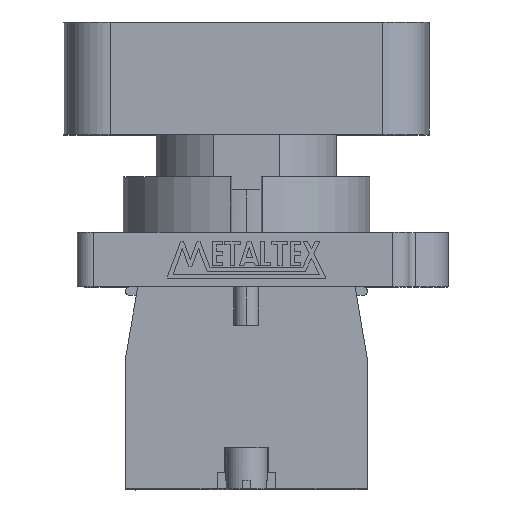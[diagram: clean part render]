
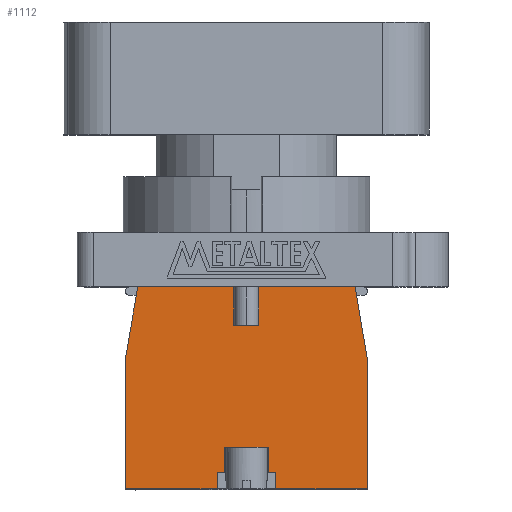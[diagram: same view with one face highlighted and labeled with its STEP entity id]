
A CAD part, top view. The second image highlights one B-rep face of the part: STEP entity #1112.
In plain terms, the highlighted planar face has unit normal (0, 0, 1).
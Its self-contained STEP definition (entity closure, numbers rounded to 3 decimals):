
#251 = EDGE_CURVE ( 'NONE', #6912, #6812, #18442, .T. ) ;
#259 = EDGE_CURVE ( 'NONE', #21025, #21026, #18466, .T. ) ;
#261 = EDGE_CURVE ( 'NONE', #21039, #6909, #18472, .T. ) ;
#262 = EDGE_CURVE ( 'NONE', #21042, #21039, #18475, .T. ) ;
#263 = EDGE_CURVE ( 'NONE', #21115, #21026, #18478, .T. ) ;
#264 = EDGE_CURVE ( 'NONE', #21130, #21042, #18481, .T. ) ;
#265 = EDGE_CURVE ( 'NONE', #21025, #6908, #18484, .T. ) ;
#268 = EDGE_CURVE ( 'NONE', #7016, #6810, #18493, .T. ) ;
#275 = EDGE_CURVE ( 'NONE', #6904, #6916, #18514, .T. ) ;
#279 = EDGE_CURVE ( 'NONE', #21131, #6900, #18526, .T. ) ;
#556 = EDGE_CURVE ( 'NONE', #6900, #6899, #8815, .T. ) ;
#563 = EDGE_CURVE ( 'NONE', #6810, #6904, #8836, .T. ) ;
#567 = EDGE_CURVE ( 'NONE', #6899, #6812, #8848, .T. ) ;
#601 = EDGE_CURVE ( 'NONE', #6908, #6909, #8950, .T. ) ;
#607 = EDGE_CURVE ( 'NONE', #6912, #7016, #8968, .T. ) ;
#618 = EDGE_CURVE ( 'NONE', #6916, #6919, #9002, .T. ) ;
#683 = EDGE_CURVE ( 'NONE', #21115, #21131, #2694, .T. ) ;
#686 = EDGE_CURVE ( 'NONE', #6919, #21130, #2703, .T. ) ;
#1112 = ADVANCED_FACE ( 'NONE', ( #4843 ), #16157, .T. ) ;
#2694 = LINE ( 'NONE', #2695, #16880 ) ;
#2695 = CARTESIAN_POINT ( 'NONE',  ( -14.5, 0., 7.45 ) ) ;
#2696 = DIRECTION ( 'NONE',  ( 1., 0., 0. ) ) ;
#2703 = LINE ( 'NONE', #2704, #16877 ) ;
#2704 = CARTESIAN_POINT ( 'NONE',  ( -14.5, 0., 7.45 ) ) ;
#2705 = DIRECTION ( 'NONE',  ( 1., 0., 0. ) ) ;
#4843 = FACE_OUTER_BOUND ( 'NONE', #19936, .T. ) ;
#4845 = AXIS2_PLACEMENT_3D ( 'NONE', #16158, #16159, #16160 ) ;
#6810 = VERTEX_POINT ( 'NONE', #11121 ) ;
#6812 = VERTEX_POINT ( 'NONE', #11124 ) ;
#6899 = VERTEX_POINT ( 'NONE', #11274 ) ;
#6900 = VERTEX_POINT ( 'NONE', #11276 ) ;
#6904 = VERTEX_POINT ( 'NONE', #11282 ) ;
#6908 = VERTEX_POINT ( 'NONE', #11287 ) ;
#6909 = VERTEX_POINT ( 'NONE', #11289 ) ;
#6912 = VERTEX_POINT ( 'NONE', #11294 ) ;
#6916 = VERTEX_POINT ( 'NONE', #11300 ) ;
#6919 = VERTEX_POINT ( 'NONE', #11305 ) ;
#7016 = VERTEX_POINT ( 'NONE', #11467 ) ;
#8815 = LINE ( 'NONE', #8816, #16998 ) ;
#8816 = CARTESIAN_POINT ( 'NONE',  ( 14.5, 15.5, 7.45 ) ) ;
#8817 = DIRECTION ( 'NONE',  ( -0.17, 0.985, 0. ) ) ;
#8836 = LINE ( 'NONE', #8837, #16991 ) ;
#8837 = CARTESIAN_POINT ( 'NONE',  ( 13., 24.2, 7.45 ) ) ;
#8838 = DIRECTION ( 'NONE',  ( -1., 0., 0. ) ) ;
#8848 = LINE ( 'NONE', #8849, #16987 ) ;
#8849 = CARTESIAN_POINT ( 'NONE',  ( 13., 24.2, 7.45 ) ) ;
#8850 = DIRECTION ( 'NONE',  ( -1., 0., 0. ) ) ;
#8950 = LINE ( 'NONE', #8951, #16954 ) ;
#8951 = CARTESIAN_POINT ( 'NONE',  ( 0., 5., 7.45 ) ) ;
#8952 = DIRECTION ( 'NONE',  ( -1., 0., 0. ) ) ;
#8968 = LINE ( 'NONE', #8969, #16947 ) ;
#8969 = CARTESIAN_POINT ( 'NONE',  ( 0., 19.6, 7.45 ) ) ;
#8970 = DIRECTION ( 'NONE',  ( -1., 0., 0. ) ) ;
#9002 = LINE ( 'NONE', #9003, #16930 ) ;
#9003 = CARTESIAN_POINT ( 'NONE',  ( -14.5, 15.5, 7.45 ) ) ;
#9004 = DIRECTION ( 'NONE',  ( 0., -1., 0. ) ) ;
#11121 = CARTESIAN_POINT ( 'NONE',  ( -1.5, 24.2, 7.45 ) ) ;
#11124 = CARTESIAN_POINT ( 'NONE',  ( 1.5, 24.2, 7.45 ) ) ;
#11274 = CARTESIAN_POINT ( 'NONE',  ( 13., 24.2, 7.45 ) ) ;
#11276 = CARTESIAN_POINT ( 'NONE',  ( 14.5, 15.5, 7.45 ) ) ;
#11282 = CARTESIAN_POINT ( 'NONE',  ( -13., 24.2, 7.45 ) ) ;
#11287 = CARTESIAN_POINT ( 'NONE',  ( 2.6, 5., 7.45 ) ) ;
#11289 = CARTESIAN_POINT ( 'NONE',  ( -2.6, 5., 7.45 ) ) ;
#11294 = CARTESIAN_POINT ( 'NONE',  ( 1.5, 19.6, 7.45 ) ) ;
#11300 = CARTESIAN_POINT ( 'NONE',  ( -14.5, 15.5, 7.45 ) ) ;
#11305 = CARTESIAN_POINT ( 'NONE',  ( -14.5, 0., 7.45 ) ) ;
#11467 = CARTESIAN_POINT ( 'NONE',  ( -1.5, 19.6, 7.45 ) ) ;
#15131 = CARTESIAN_POINT ( 'NONE',  ( 2.6, 2., 7.45 ) ) ;
#15132 = CARTESIAN_POINT ( 'NONE',  ( 3.5, 2., 7.45 ) ) ;
#15145 = CARTESIAN_POINT ( 'NONE',  ( -2.6, 2., 7.45 ) ) ;
#15148 = CARTESIAN_POINT ( 'NONE',  ( -3.5, 2., 7.45 ) ) ;
#15221 = CARTESIAN_POINT ( 'NONE',  ( 3.5, 0., 7.45 ) ) ;
#15236 = CARTESIAN_POINT ( 'NONE',  ( -3.5, 0., 7.45 ) ) ;
#15237 = CARTESIAN_POINT ( 'NONE',  ( 14.5, 0., 7.45 ) ) ;
#16157 = PLANE ( 'NONE',  #4845 ) ;
#16158 = CARTESIAN_POINT ( 'NONE',  ( 0., 0., 7.45 ) ) ;
#16159 = DIRECTION ( 'NONE',  ( 0., 0., 1. ) ) ;
#16160 = DIRECTION ( 'NONE',  ( 1., 0., 0. ) ) ;
#16877 = VECTOR ( 'NONE', #2705, 1000. ) ;
#16880 = VECTOR ( 'NONE', #2696, 1000. ) ;
#16930 = VECTOR ( 'NONE', #9004, 1000. ) ;
#16947 = VECTOR ( 'NONE', #8970, 1000. ) ;
#16954 = VECTOR ( 'NONE', #8952, 1000. ) ;
#16987 = VECTOR ( 'NONE', #8850, 1000. ) ;
#16991 = VECTOR ( 'NONE', #8838, 1000. ) ;
#16998 = VECTOR ( 'NONE', #8817, 1000. ) ;
#17274 = VECTOR ( 'NONE', #18528, 1000. ) ;
#17278 = VECTOR ( 'NONE', #18516, 1000. ) ;
#17284 = VECTOR ( 'NONE', #18495, 1000. ) ;
#17287 = VECTOR ( 'NONE', #18486, 1000. ) ;
#17288 = VECTOR ( 'NONE', #18483, 1000. ) ;
#17289 = VECTOR ( 'NONE', #18480, 1000. ) ;
#17291 = VECTOR ( 'NONE', #18477, 1000. ) ;
#17292 = VECTOR ( 'NONE', #18474, 1000. ) ;
#17294 = VECTOR ( 'NONE', #18468, 1000. ) ;
#17301 = VECTOR ( 'NONE', #18444, 1000. ) ;
#18442 = LINE ( 'NONE', #18443, #17301 ) ;
#18443 = CARTESIAN_POINT ( 'NONE',  ( 1.5, 19.6, 7.45 ) ) ;
#18444 = DIRECTION ( 'NONE',  ( 0., 1., 0. ) ) ;
#18466 = LINE ( 'NONE', #18467, #17294 ) ;
#18467 = CARTESIAN_POINT ( 'NONE',  ( 0., 2., 7.45 ) ) ;
#18468 = DIRECTION ( 'NONE',  ( 1., 0., 0. ) ) ;
#18472 = LINE ( 'NONE', #18473, #17292 ) ;
#18473 = CARTESIAN_POINT ( 'NONE',  ( -2.6, 0., 7.45 ) ) ;
#18474 = DIRECTION ( 'NONE',  ( 0., 1., 0. ) ) ;
#18475 = LINE ( 'NONE', #18476, #17291 ) ;
#18476 = CARTESIAN_POINT ( 'NONE',  ( 0., 2., 7.45 ) ) ;
#18477 = DIRECTION ( 'NONE',  ( 1., 0., 0. ) ) ;
#18478 = LINE ( 'NONE', #18479, #17289 ) ;
#18479 = CARTESIAN_POINT ( 'NONE',  ( 3.5, 0., 7.45 ) ) ;
#18480 = DIRECTION ( 'NONE',  ( 0., 1., 0. ) ) ;
#18481 = LINE ( 'NONE', #18482, #17288 ) ;
#18482 = CARTESIAN_POINT ( 'NONE',  ( -3.5, 0., 7.45 ) ) ;
#18483 = DIRECTION ( 'NONE',  ( 0., 1., 0. ) ) ;
#18484 = LINE ( 'NONE', #18485, #17287 ) ;
#18485 = CARTESIAN_POINT ( 'NONE',  ( 2.6, 0., 7.45 ) ) ;
#18486 = DIRECTION ( 'NONE',  ( 0., 1., 0. ) ) ;
#18493 = LINE ( 'NONE', #18494, #17284 ) ;
#18494 = CARTESIAN_POINT ( 'NONE',  ( -1.5, 19.6, 7.45 ) ) ;
#18495 = DIRECTION ( 'NONE',  ( 0., 1., 0. ) ) ;
#18514 = LINE ( 'NONE', #18515, #17278 ) ;
#18515 = CARTESIAN_POINT ( 'NONE',  ( -13., 24.2, 7.45 ) ) ;
#18516 = DIRECTION ( 'NONE',  ( -0.17, -0.985, 0. ) ) ;
#18526 = LINE ( 'NONE', #18527, #17274 ) ;
#18527 = CARTESIAN_POINT ( 'NONE',  ( 14.5, 0., 7.45 ) ) ;
#18528 = DIRECTION ( 'NONE',  ( 0., 1., 0. ) ) ;
#19024 = ORIENTED_EDGE ( 'NONE', *, *, #251, .F. ) ;
#19025 = ORIENTED_EDGE ( 'NONE', *, *, #567, .T. ) ;
#19026 = ORIENTED_EDGE ( 'NONE', *, *, #279, .T. ) ;
#19028 = ORIENTED_EDGE ( 'NONE', *, *, #607, .T. ) ;
#19049 = ORIENTED_EDGE ( 'NONE', *, *, #556, .T. ) ;
#19050 = ORIENTED_EDGE ( 'NONE', *, *, #263, .F. ) ;
#19051 = ORIENTED_EDGE ( 'NONE', *, *, #259, .T. ) ;
#19052 = ORIENTED_EDGE ( 'NONE', *, *, #683, .T. ) ;
#19053 = ORIENTED_EDGE ( 'NONE', *, *, #262, .T. ) ;
#19054 = ORIENTED_EDGE ( 'NONE', *, *, #601, .F. ) ;
#19055 = ORIENTED_EDGE ( 'NONE', *, *, #265, .F. ) ;
#19056 = ORIENTED_EDGE ( 'NONE', *, *, #261, .T. ) ;
#19058 = ORIENTED_EDGE ( 'NONE', *, *, #268, .T. ) ;
#19066 = ORIENTED_EDGE ( 'NONE', *, *, #275, .T. ) ;
#19072 = ORIENTED_EDGE ( 'NONE', *, *, #618, .T. ) ;
#19073 = ORIENTED_EDGE ( 'NONE', *, *, #563, .T. ) ;
#19074 = ORIENTED_EDGE ( 'NONE', *, *, #686, .T. ) ;
#19075 = ORIENTED_EDGE ( 'NONE', *, *, #264, .T. ) ;
#19936 = EDGE_LOOP ( 'NONE', ( #19058, #19073, #19066, #19072, #19074, #19075, #19053, #19056, #19054, #19055, #19051, #19050, #19052, #19026, #19049, #19025, #19024, #19028 ) ) ;
#21025 = VERTEX_POINT ( 'NONE', #15131 ) ;
#21026 = VERTEX_POINT ( 'NONE', #15132 ) ;
#21039 = VERTEX_POINT ( 'NONE', #15145 ) ;
#21042 = VERTEX_POINT ( 'NONE', #15148 ) ;
#21115 = VERTEX_POINT ( 'NONE', #15221 ) ;
#21130 = VERTEX_POINT ( 'NONE', #15236 ) ;
#21131 = VERTEX_POINT ( 'NONE', #15237 ) ;
